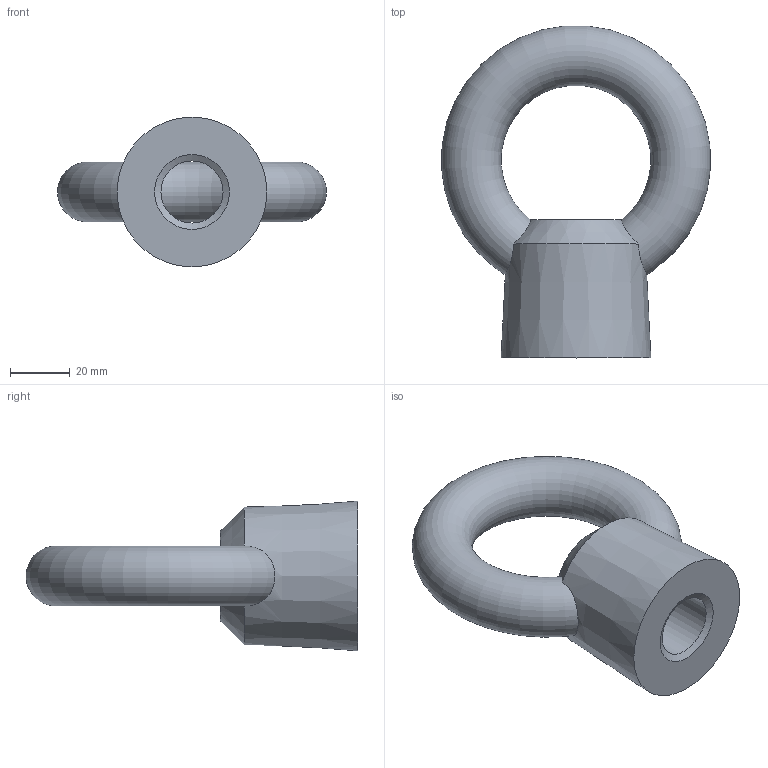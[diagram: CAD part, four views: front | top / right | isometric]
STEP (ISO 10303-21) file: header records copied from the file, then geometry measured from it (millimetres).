
FILE_DESCRIPTION(/* description */ (''),/* implementation_level */ '2;1');
FILE_NAME(/* name */ 'C:\Users\D\Documents\Inventor\各種小物\JIS\アイナット\M24.stp',/* time_stamp */ '2022-06-16T14:17:34+09:00',/* author */ ('D'),/* organization */ (''),/* preprocessor_version */ 'ST-DEVELOPER v18',/* originating_system */ 'Autodesk Inventor 2020',/* authorisation */ '');
FILE_SCHEMA (('AUTOMOTIVE_DESIGN { 1 0 10303 214 3 1 1 }'));
Length unit declared in the file: millimetre
Products named in the file (1): M8
Bounding box: 89.77 x 110.81 x 50 mm (x, y, z)
Volume: 117878.6 mm3; surface area: 22560.4 mm2
Topology: 1 solids, 1 shells, 8 faces, 22 edges, 14 vertices
Faces by surface type: cone 4, plane 2, cylinder 1, torus 1
Full cylindrical faces by diameter (mm): 20.752 x1
Entity records: 382 total; most frequent: CARTESIAN_POINT 130, DIRECTION 45, ORIENTED_EDGE 44, EDGE_CURVE 22, AXIS2_PLACEMENT_3D 21, VERTEX_POINT 14, CIRCLE 12, EDGE_LOOP 10
